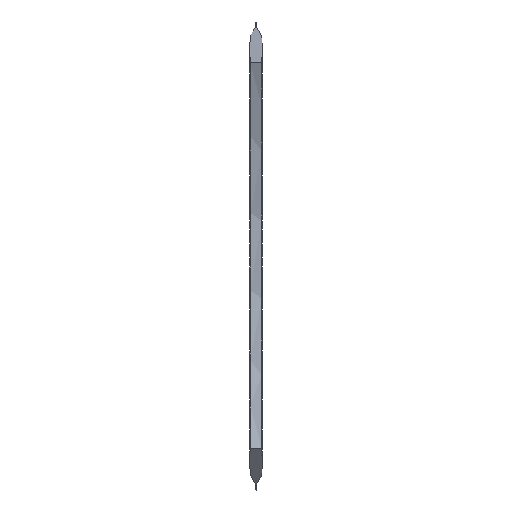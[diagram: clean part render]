
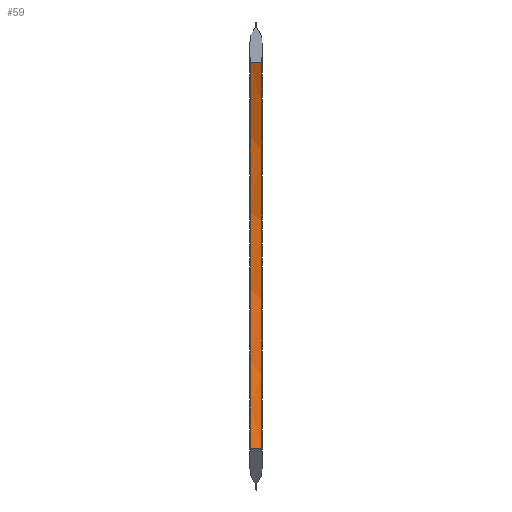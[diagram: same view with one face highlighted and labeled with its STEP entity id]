
A CAD part, left-side view. The second image highlights one B-rep face of the part: STEP entity #59.
In plain terms, the highlighted cylindrical face has radius 5867.4 mm (diameter 11734.8 mm), a partial arc.
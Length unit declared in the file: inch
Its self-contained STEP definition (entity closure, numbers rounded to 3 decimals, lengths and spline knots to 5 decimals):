
#42=CYLINDRICAL_SURFACE('',#249,231.);
#59=ADVANCED_FACE('',(#80),#42,.F.);
#80=FACE_OUTER_BOUND('',#93,.T.);
#93=EDGE_LOOP('',(#156,#157,#158,#159));
#156=ORIENTED_EDGE('',*,*,#182,.T.);
#157=ORIENTED_EDGE('',*,*,#193,.T.);
#158=ORIENTED_EDGE('',*,*,#212,.F.);
#159=ORIENTED_EDGE('',*,*,#196,.T.);
#160=VERTEX_POINT('',#257);
#161=VERTEX_POINT('',#258);
#171=VERTEX_POINT('',#761);
#173=VERTEX_POINT('',#1065);
#182=EDGE_CURVE('',#160,#161,#215,.T.);
#193=EDGE_CURVE('',#161,#171,#226,.T.);
#196=EDGE_CURVE('',#173,#160,#229,.T.);
#212=EDGE_CURVE('',#173,#171,#245,.T.);
#215=B_SPLINE_CURVE_WITH_KNOTS('',1,(#255,#256),.UNSPECIFIED.,.F.,.F.,(2,
2),(0.,1.),.UNSPECIFIED.);
#226=B_SPLINE_CURVE_WITH_KNOTS('',3,(#737,#738,#739,#740,#741,#742,#743,
#744,#745,#746,#747,#748,#749,#750,#751,#752,#753,#754,#755,#756,#757,#758,
#759,#760),.UNSPECIFIED.,.F.,.F.,(4,2,2,2,2,2,2,2,2,2,2,4),(0.,0.125,0.25,
0.3125,0.34375,0.375,0.5,0.625,0.6875,0.75,0.875,1.),
 .UNSPECIFIED.);
#229=B_SPLINE_CURVE_WITH_KNOTS('',3,(#1039,#1040,#1041,#1042,#1043,#1044,
#1045,#1046,#1047,#1048,#1049,#1050,#1051,#1052,#1053,#1054,#1055,#1056,
#1057,#1058,#1059,#1060,#1061,#1062,#1063,#1064),.UNSPECIFIED.,.F.,.F.,
(4,2,2,2,2,2,2,2,2,2,2,2,4),(0.,0.125,0.25,0.3125,
0.34375,0.375,0.5,0.625,
0.6875,0.71875,0.75,0.875,1.),.UNSPECIFIED.);
#245=B_SPLINE_CURVE_WITH_KNOTS('',1,(#5537,#5538),.UNSPECIFIED.,.F.,.F.,
(2,2),(0.,1.),.UNSPECIFIED.);
#249=AXIS2_PLACEMENT_3D('',#6265,#252,#253);
#252=DIRECTION('',(0.,-1.,0.));
#253=DIRECTION('',(0.,0.,-1.));
#255=CARTESIAN_POINT('',(366.45604,2.95251,-95.23264));
#256=CARTESIAN_POINT('',(366.45604,-2.95256,-95.23264));
#257=CARTESIAN_POINT('',(366.45604,2.9525,-95.23264));
#258=CARTESIAN_POINT('',(366.45604,-2.95253,-95.23264));
#737=CARTESIAN_POINT('',(366.45603,-2.95249,-95.23265));
#738=CARTESIAN_POINT('',(369.84854,-2.95249,-87.7355));
#739=CARTESIAN_POINT('',(372.81556,-2.95249,-80.11517));
#740=CARTESIAN_POINT('',(377.92279,-2.95249,-64.63515));
#741=CARTESIAN_POINT('',(380.06295,-2.95249,-56.77545));
#742=CARTESIAN_POINT('',(382.64981,-2.95249,-44.80542));
#743=CARTESIAN_POINT('',(383.40799,-2.95249,-40.78527));
#744=CARTESIAN_POINT('',(384.3867,-2.95249,-34.70914));
#745=CARTESIAN_POINT('',(384.68649,-2.95249,-32.67611));
#746=CARTESIAN_POINT('',(385.23261,-2.95249,-28.59457));
#747=CARTESIAN_POINT('',(385.47856,-2.95249,-26.54825));
#748=CARTESIAN_POINT('',(386.56811,-2.95249,-16.33576));
#749=CARTESIAN_POINT('',(386.99821,-2.95249,-8.18422));
#750=CARTESIAN_POINT('',(387.00177,-2.95249,8.08308));
#751=CARTESIAN_POINT('',(386.57516,-2.95249,16.19884));
#752=CARTESIAN_POINT('',(385.29044,-2.95249,28.34553));
#753=CARTESIAN_POINT('',(384.75452,-2.95249,32.38993));
#754=CARTESIAN_POINT('',(383.46417,-2.95249,40.4696));
#755=CARTESIAN_POINT('',(382.70945,-2.95249,44.50627));
#756=CARTESIAN_POINT('',(380.11177,-2.95249,56.59374));
#757=CARTESIAN_POINT('',(377.96054,-2.95249,64.51027));
#758=CARTESIAN_POINT('',(372.83545,-2.95249,80.06525));
#759=CARTESIAN_POINT('',(369.86157,-2.95249,87.70369));
#760=CARTESIAN_POINT('',(366.47033,-2.95249,95.20105));
#761=CARTESIAN_POINT('',(366.47034,-2.95254,95.20103));
#1039=CARTESIAN_POINT('',(366.47033,2.95249,95.20105));
#1040=CARTESIAN_POINT('',(369.8593,2.95249,87.70873));
#1041=CARTESIAN_POINT('',(372.82428,2.95249,80.09143));
#1042=CARTESIAN_POINT('',(377.92902,2.95249,64.61358));
#1043=CARTESIAN_POINT('',(380.06873,2.95249,56.75301));
#1044=CARTESIAN_POINT('',(382.65517,2.95249,44.77847));
#1045=CARTESIAN_POINT('',(383.41324,2.95249,40.75628));
#1046=CARTESIAN_POINT('',(384.39171,2.95249,34.67624));
#1047=CARTESIAN_POINT('',(384.69141,2.95249,32.64176));
#1048=CARTESIAN_POINT('',(385.23731,2.95249,28.55703));
#1049=CARTESIAN_POINT('',(385.48247,2.95249,26.51431));
#1050=CARTESIAN_POINT('',(386.56977,2.95249,16.30918));
#1051=CARTESIAN_POINT('',(386.99897,2.95249,8.16135));
#1052=CARTESIAN_POINT('',(387.00103,2.95249,-8.10272));
#1053=CARTESIAN_POINT('',(386.57384,2.95249,-16.21895));
#1054=CARTESIAN_POINT('',(385.28751,2.95249,-28.36946));
#1055=CARTESIAN_POINT('',(384.75092,2.95249,-32.41565));
#1056=CARTESIAN_POINT('',(383.78184,2.95249,-38.47887));
#1057=CARTESIAN_POINT('',(383.43143,2.95249,-40.49894));
#1058=CARTESIAN_POINT('',(382.67526,2.95249,-44.53703));
#1059=CARTESIAN_POINT('',(382.26898,2.95249,-46.55739));
#1060=CARTESIAN_POINT('',(380.10389,2.95249,-56.62425));
#1061=CARTESIAN_POINT('',(377.95241,2.95249,-64.53822));
#1062=CARTESIAN_POINT('',(372.82552,2.95249,-80.0921));
#1063=CARTESIAN_POINT('',(369.85012,2.95249,-87.73201));
#1064=CARTESIAN_POINT('',(366.45603,2.95249,-95.23265));
#1065=CARTESIAN_POINT('',(366.47034,2.95254,95.20103));
#5537=CARTESIAN_POINT('',(366.47034,2.95256,95.20103));
#5538=CARTESIAN_POINT('',(366.47034,-2.95256,95.20103));
#6265=CARTESIAN_POINT('',(156.,-200.,0.));
